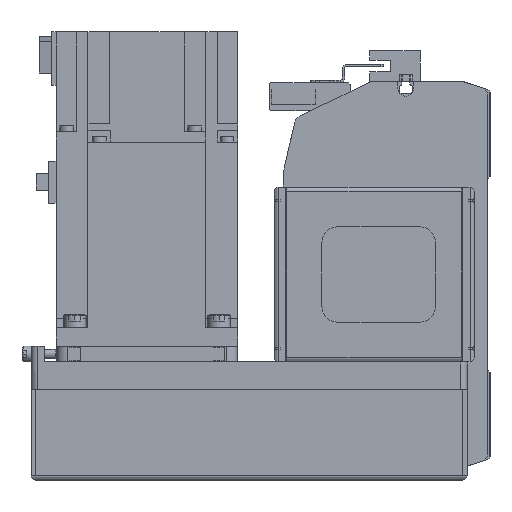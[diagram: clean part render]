
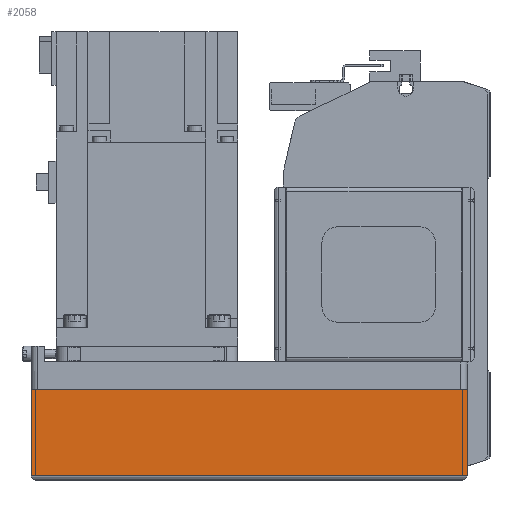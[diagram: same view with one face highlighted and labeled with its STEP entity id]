
A CAD part, left-side view. The second image highlights one B-rep face of the part: STEP entity #2058.
In plain terms, the highlighted planar face has unit normal (-1, 0, 0) as drawn and (0, -1, 0) by its records, which use the part's own axes.
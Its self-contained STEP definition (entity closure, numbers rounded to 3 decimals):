
#2058 = ADVANCED_FACE( '', ( #4811 ), #4812, .T. );
#4811 = FACE_OUTER_BOUND( '', #8429, .T. );
#4812 = PLANE( '', #8430 );
#8429 = EDGE_LOOP( '', ( #14200, #14201, #14202, #14203 ) );
#8430 = AXIS2_PLACEMENT_3D( '', #14204, #14205, #14206 );
#14200 = ORIENTED_EDGE( '', *, *, #22258, .F. );
#14201 = ORIENTED_EDGE( '', *, *, #22259, .F. );
#14202 = ORIENTED_EDGE( '', *, *, #21746, .T. );
#14203 = ORIENTED_EDGE( '', *, *, #20834, .T. );
#14204 = CARTESIAN_POINT( '', ( -192., -40., -12.1 ) );
#14205 = DIRECTION( '', ( 0., -1., 0. ) );
#14206 = DIRECTION( '', ( 0., 0., -1. ) );
#20834 = EDGE_CURVE( '', #24946, #24950, #24952, .T. );
#21746 = EDGE_CURVE( '', #26480, #24946, #26481, .T. );
#22258 = EDGE_CURVE( '', #26662, #24950, #27278, .T. );
#22259 = EDGE_CURVE( '', #26480, #26662, #27279, .T. );
#24946 = VERTEX_POINT( '', #31034 );
#24950 = VERTEX_POINT( '', #31039 );
#24952 = LINE( '', #31041, #31042 );
#26480 = VERTEX_POINT( '', #33394 );
#26481 = LINE( '', #33395, #33396 );
#26662 = VERTEX_POINT( '', #33667 );
#27278 = LINE( '', #34680, #34681 );
#27279 = LINE( '', #34682, #34683 );
#31034 = CARTESIAN_POINT( '', ( -192., -40., -50. ) );
#31039 = CARTESIAN_POINT( '', ( 0., -40., -50. ) );
#31041 = CARTESIAN_POINT( '', ( -192., -40., -50. ) );
#31042 = VECTOR( '', #38785, 1000. );
#33394 = CARTESIAN_POINT( '', ( -192., -40., -12.1 ) );
#33395 = CARTESIAN_POINT( '', ( -192., -40., -12.1 ) );
#33396 = VECTOR( '', #39931, 1000. );
#33667 = CARTESIAN_POINT( '', ( 0., -40., -12.1 ) );
#34680 = CARTESIAN_POINT( '', ( 0., -40., -12.1 ) );
#34681 = VECTOR( '', #40529, 1000. );
#34682 = CARTESIAN_POINT( '', ( -192., -40., -12.1 ) );
#34683 = VECTOR( '', #40530, 1000. );
#38785 = DIRECTION( '', ( 1., 0., 0. ) );
#39931 = DIRECTION( '', ( 0., 0., -1. ) );
#40529 = DIRECTION( '', ( 0., 0., -1. ) );
#40530 = DIRECTION( '', ( 1., 0., 0. ) );
